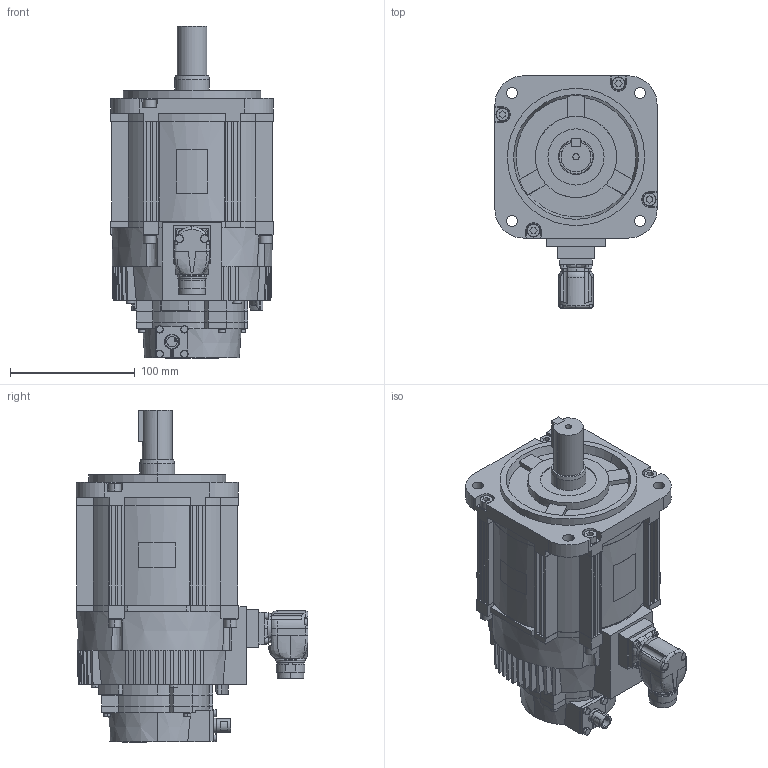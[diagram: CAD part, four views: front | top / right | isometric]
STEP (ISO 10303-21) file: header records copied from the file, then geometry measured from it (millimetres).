
FILE_DESCRIPTION (( 'STEP AP214' ), '1' );
FILE_NAME ('sgm7g_20d_r6h.STEP', '2016-08-23T14:16:53', ( '安川電機' ), ( 'YASKAWA' ), 'SwSTEP 2.0', 'SolidWorks 2006303', '' );
FILE_SCHEMA (( 'AUTOMOTIVE_DESIGN' ));
Length unit declared in the file: millimetre
Products named in the file (4): sgm7g_20d_r6h_key_蹬怮椔; sgm7g_20d_r6h_connector; sgm7g_20d_r6h_base_蹬怮椔; sgm7g_20d_r6h
Assembly tree (3 placements, depth 2):
  sgm7g_20d_r6h
    sgm7g_20d_r6h_connector
    sgm7g_20d_r6h_key_蹬怮椔
    sgm7g_20d_r6h_base_蹬怮椔
Bounding box: 130 x 185.9 x 266.1 mm (x, y, z)
Volume: 2553045.7 mm3; surface area: 183579.7 mm2
Topology: 3 solids, 3 shells, 1073 faces, 2774 edges, 1793 vertices
Faces by surface type: plane 684, cylinder 260, cone 100, bspline 20, torus 9
Entity records: 46350 total; most frequent: CARTESIAN_POINT 8016, ORIENTED_EDGE 5544, DIRECTION 5497, EDGE_CURVE 2772, AXIS2_PLACEMENT_3D 1913, VERTEX_POINT 1793, VECTOR 1671, LINE 1671
